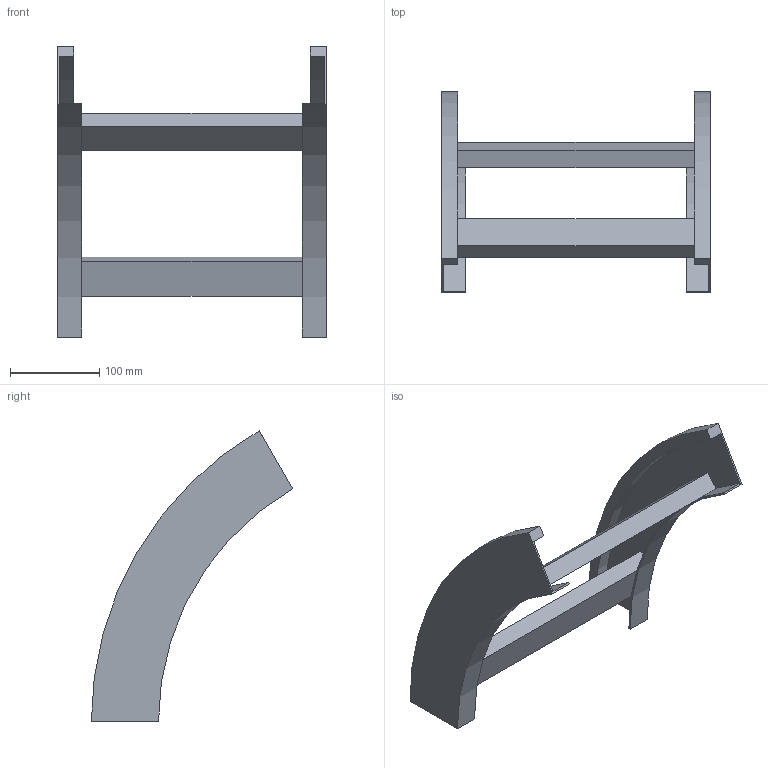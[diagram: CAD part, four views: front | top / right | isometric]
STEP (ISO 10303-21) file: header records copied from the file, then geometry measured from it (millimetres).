
FILE_DESCRIPTION (( 'STEP AP214' ), '1' );
FILE_NAME ('B2_41B3C300.step', '2025-02-21T15:00:31', ( '' ), ( '' ), 'SwSTEP 2.0', 'SolidWorks 2023', '' );
FILE_SCHEMA (( 'AUTOMOTIVE_DESIGN' ));
Length unit declared in the file: millimetre
Products named in the file (3): B2_LONGH.DISCESA_60°_H75_R300; TRAVERSINO_300; B2_41B3C300
Assembly tree (4 placements, depth 2):
  B2_41B3C300
    B2_LONGH.DISCESA_60°_H75_R300  x2
    TRAVERSINO_300  x2
Bounding box: 300 x 225 x 324.76 mm (x, y, z)
Volume: 765453.1 mm3; surface area: 241547.4 mm2
Topology: 4 solids, 4 shells, 32 faces, 72 edges, 48 vertices
Faces by surface type: plane 24, cylinder 8
Entity records: 552 total; most frequent: DIRECTION 90, CARTESIAN_POINT 83, ORIENTED_EDGE 72, EDGE_CURVE 36, AXIS2_PLACEMENT_3D 31, VECTOR 28, LINE 28, VERTEX_POINT 24
